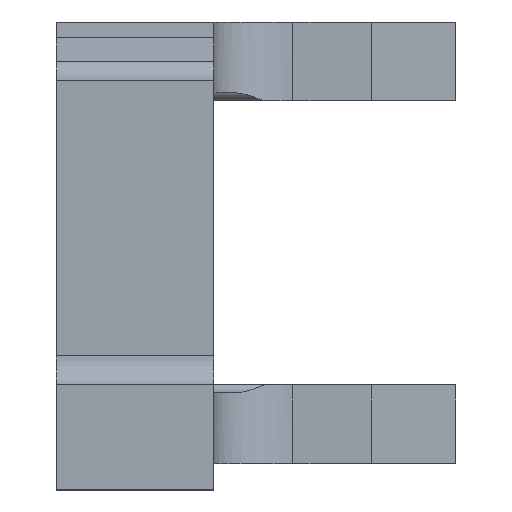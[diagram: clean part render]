
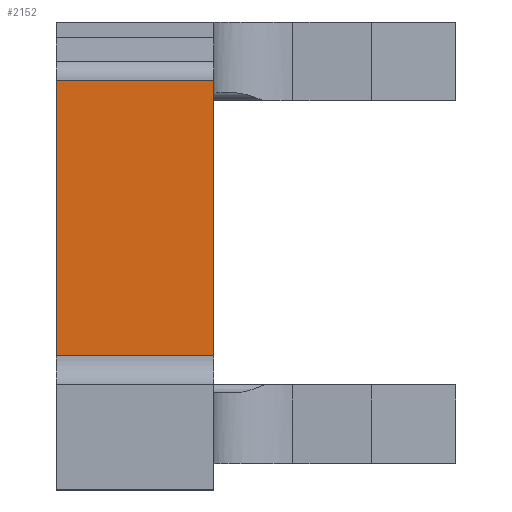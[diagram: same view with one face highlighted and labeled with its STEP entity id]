
A CAD part, left-side view. The second image highlights one B-rep face of the part: STEP entity #2152.
In plain terms, the highlighted planar face has unit normal (-1, 0, 0).
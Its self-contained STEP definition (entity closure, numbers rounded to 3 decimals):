
#937=CARTESIAN_POINT('',(-76.338,28.375,-8.144));
#938=VERTEX_POINT('',#937);
#946=CARTESIAN_POINT('',(-76.338,28.375,-60.5));
#947=VERTEX_POINT('',#946);
#948=CARTESIAN_POINT('',(-76.338,28.375,-60.5));
#949=DIRECTION('',(0.0,0.0,1.0));
#950=VECTOR('',#949,52.356);
#951=LINE('',#948,#950);
#952=EDGE_CURVE('',#947,#938,#951,.T.);
#2034=CARTESIAN_POINT('',(-76.338,58.375,-60.5));
#2035=VERTEX_POINT('',#2034);
#2043=CARTESIAN_POINT('',(-76.338,58.375,-8.144));
#2044=VERTEX_POINT('',#2043);
#2045=CARTESIAN_POINT('',(-76.338,58.375,-8.144));
#2046=DIRECTION('',(0.0,0.0,-1.0));
#2047=VECTOR('',#2046,52.356);
#2048=LINE('',#2045,#2047);
#2049=EDGE_CURVE('',#2044,#2035,#2048,.T.);
#2126=CARTESIAN_POINT('',(-76.338,58.375,-60.5));
#2127=DIRECTION('',(0.0,-1.0,0.0));
#2128=VECTOR('',#2127,30.);
#2129=LINE('',#2126,#2128);
#2130=EDGE_CURVE('',#2035,#947,#2129,.T.);
#2136=CARTESIAN_POINT('',(-76.338,59.875,-60.5));
#2137=DIRECTION('',(1.0,0.0,0.0));
#2138=DIRECTION('',(0.0,0.0,-1.0));
#2139=AXIS2_PLACEMENT_3D('',#2136,#2137,#2138);
#2140=PLANE('',#2139);
#2141=ORIENTED_EDGE('',*,*,#952,.T.);
#2142=CARTESIAN_POINT('',(-76.338,58.375,-8.144));
#2143=DIRECTION('',(0.0,-1.0,0.0));
#2144=VECTOR('',#2143,30.);
#2145=LINE('',#2142,#2144);
#2146=EDGE_CURVE('',#2044,#938,#2145,.T.);
#2147=ORIENTED_EDGE('',*,*,#2146,.F.);
#2148=ORIENTED_EDGE('',*,*,#2049,.T.);
#2149=ORIENTED_EDGE('',*,*,#2130,.T.);
#2150=EDGE_LOOP('',(#2141,#2147,#2148,#2149));
#2151=FACE_OUTER_BOUND('',#2150,.T.);
#2152=ADVANCED_FACE('',(#2151),#2140,.F.);
